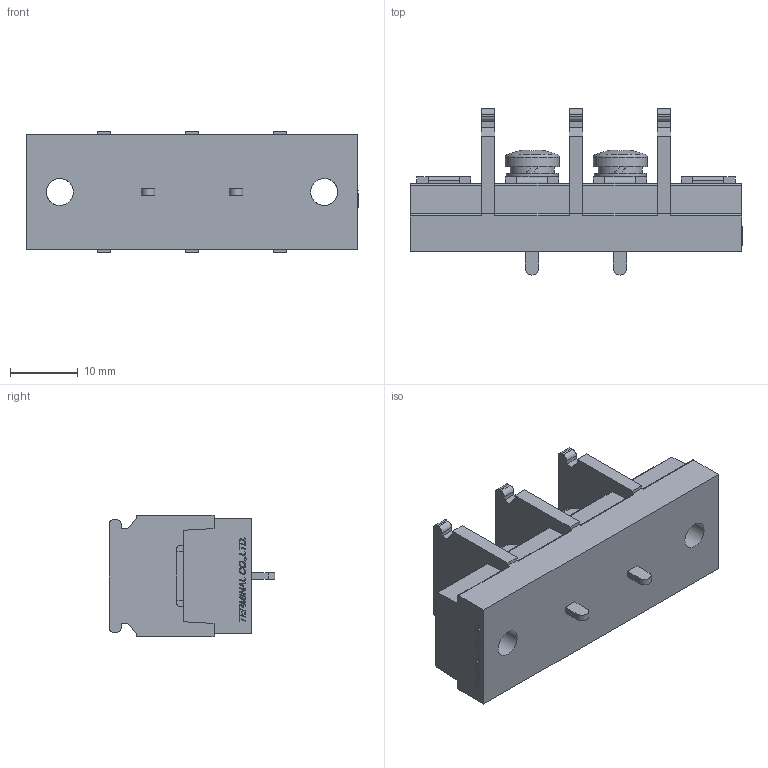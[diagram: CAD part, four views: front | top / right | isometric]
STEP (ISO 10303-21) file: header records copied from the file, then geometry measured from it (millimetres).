
FILE_DESCRIPTION(/* description */ ('Alibre Inc.'),/* implementation_level */ '2;1');
FILE_NAME(/* name */ 'export0',/* time_stamp */ '2016-08-02T19:19:11+09:00',/* author */ (''),/* organization */ (''),/* preprocessor_version */ 'ST-DEVELOPER v14',/* originating_system */ 'Alibre',/* authorisation */ '');
FILE_SCHEMA (('CONFIG_CONTROL_DESIGN'));
Length unit declared in the file: centimetre
Products named in the file (1): ID_1
Bounding box: 49 x 24.5 x 18 mm (x, y, z)
Volume: 9143.1 mm3; surface area: 5068.6 mm2
Topology: 1 solids, 35 shells, 1000 faces, 2620 edges, 1740 vertices
Faces by surface type: plane 726, bspline 208, cylinder 52, cone 10, sphere 2, torus 2
Full cylindrical faces by diameter (mm): 4 x6, 6.5 x2, 7.7 x2, 8 x2
Entity records: 29587 total; most frequent: CARTESIAN_POINT 7197, ORIENTED_EDGE 5192, DIRECTION 3122, EDGE_CURVE 2596, VECTOR 1984, LINE 1984, VERTEX_POINT 1730, EDGE_LOOP 1088
